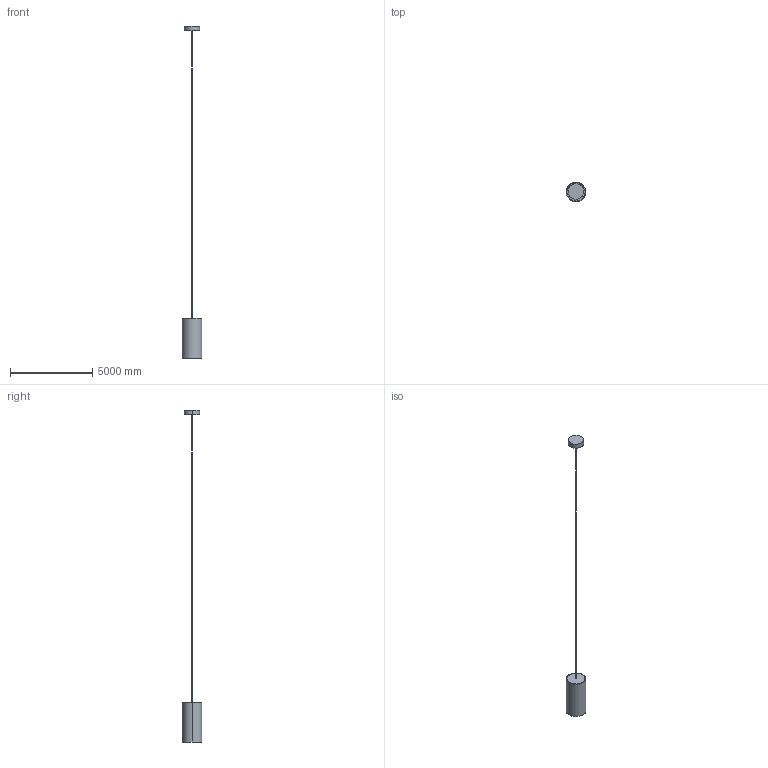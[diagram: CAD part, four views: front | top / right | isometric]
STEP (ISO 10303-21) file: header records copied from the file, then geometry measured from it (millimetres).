
FILE_DESCRIPTION(/* description */ (''),/* implementation_level */ '2;1');
FILE_NAME(/* name */ '1516',/* time_stamp */ '2022-01-18T17:15:14+01:00',/* author */ (''),/* organization */ (''),/* preprocessor_version */ 'ST-DEVELOPER v16.5',/* originating_system */ '',/* authorisation */ '');
FILE_SCHEMA (('CONFIG_CONTROL_DESIGN'));
Length unit declared in the file: centimetre
Products named in the file (1): Document
Bounding box: 1200 x 1199.97 x 20195 mm (x, y, z)
Volume: 214023928.4 mm3; surface area: 15430637.4 mm2
Topology: 3 solids, 5 shells, 15 faces, 25 edges, 17 vertices
Faces by surface type: cylinder 8, plane 7
Entity records: 422 total; most frequent: CARTESIAN_POINT 140, ORIENTED_EDGE 45, EDGE_CURVE 25, DIRECTION 21, AXIS2_PLACEMENT_3D 18, VERTEX_POINT 17, ADVANCED_FACE 15, FACE_OUTER_BOUND 15
